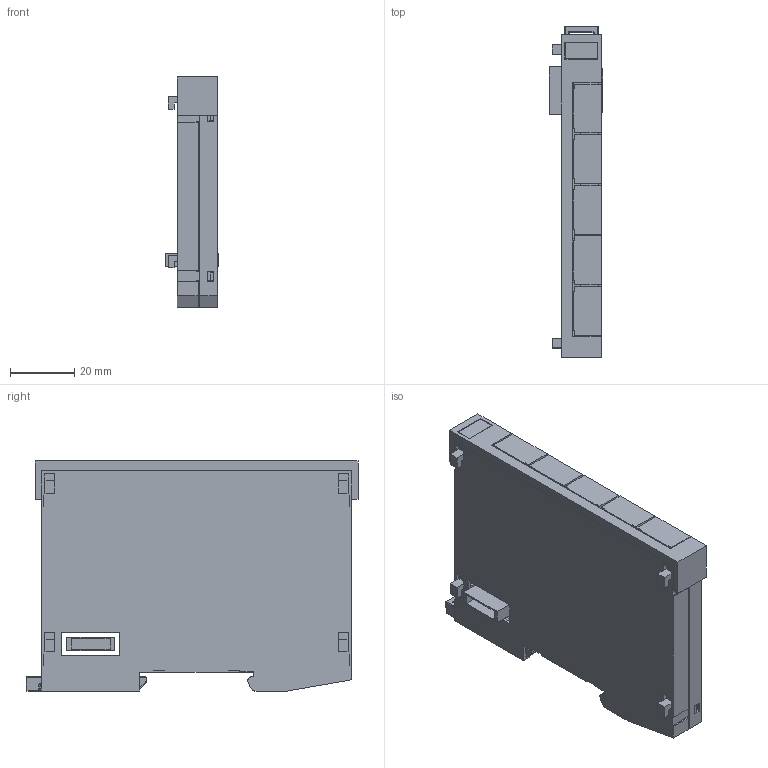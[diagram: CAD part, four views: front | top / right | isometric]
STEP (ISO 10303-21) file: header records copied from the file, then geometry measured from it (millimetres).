
FILE_DESCRIPTION (( 'STEP AP214' ), '1' );
FILE_NAME ('BL011.STEP', '2015-08-18T09:02:00', ( 'SIGMATEK GmbH & Co KG' ), ( 'SIGMATEK GmbH & Co KG' ), 'SwSTEP 2.0', 'SolidWorks 2013', '' );
FILE_SCHEMA (( 'AUTOMOTIVE_DESIGN' ));
Length unit declared in the file: millimetre
Products named in the file (10): S-Dias Rasthaken 20130313; Schieber_f Suport; S-Dias Schale rechts_f Suport; S-Dias Schale links_f Suport; 4110251342_MF 10-5 MC CABUR_1854510000; BL011; Steckerabdeckung_Var 9; LP_BL011; Dummy_4080225346 Erni Stift; Dummy_4080225345 Erni Buchse
Assembly tree (13 placements, depth 3):
  BL011
    4110251342_MF 10-5 MC CABUR_1854510000
    S-Dias Schale links_f Suport
    S-Dias Schale rechts_f Suport
    Schieber_f Suport
    S-Dias Rasthaken 20130313
    LP_BL011
      Dummy_4080225345 Erni Buchse
      Dummy_4080225346 Erni Stift
    Steckerabdeckung_Var 9  x5
Bounding box: 16.8 x 103.61 x 71.79 mm (x, y, z)
Volume: 22179.4 mm3; surface area: 42709.3 mm2
Topology: 12 solids, 12 shells, 1057 faces, 3063 edges, 2028 vertices
Faces by surface type: plane 783, cylinder 163, bspline 55, cone 28, torus 15, sphere 13
Entity records: 31577 total; most frequent: CARTESIAN_POINT 7476, ORIENTED_EDGE 4708, DIRECTION 3683, EDGE_CURVE 2354, VECTOR 1687, LINE 1687, VERTEX_POINT 1564, AXIS2_PLACEMENT_3D 998
